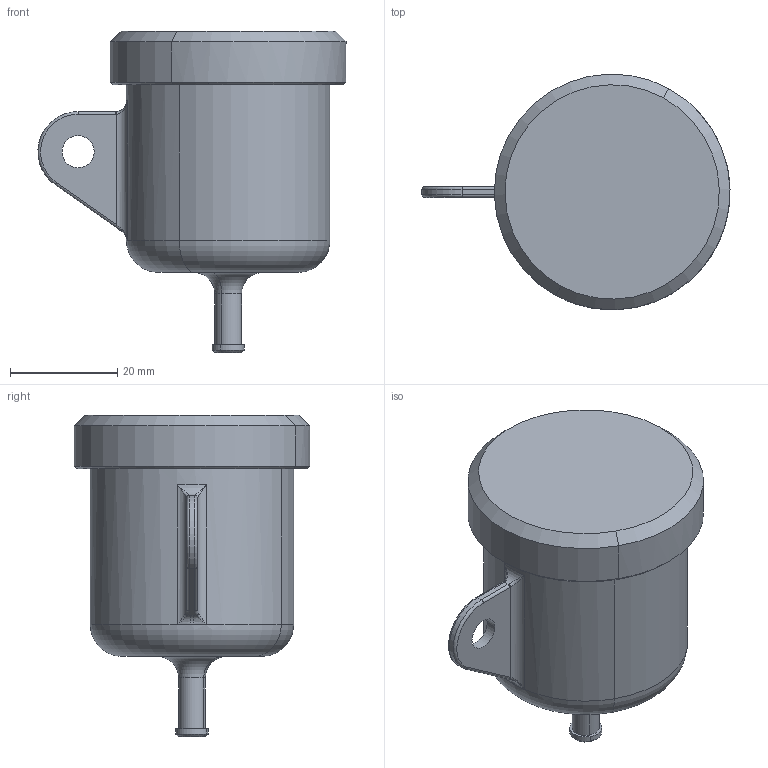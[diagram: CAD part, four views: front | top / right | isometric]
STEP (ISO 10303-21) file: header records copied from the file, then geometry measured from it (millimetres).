
FILE_DESCRIPTION(('3DEXPERIENCE STEP','CAx-IF Rec.Pracs.--- Model Styling and Organization---1.5--- 2016-08-15','CAx-IF Rec.Pracs.---Supplemental Geometry---1.0---2011-11-01','CAx-IF Rec.Pracs.--- Composite Materials ---3.4---2017-06-13','CAx-IF Rec.Pracs.---Tessellated 3D Geometry---1.0---2015-12-17'),'2;1');
FILE_NAME('\\?\D:\School\CarTech\CTU.25\Tutorials\Model\OEM\Reservoir.stp','2024-09-26T02:27:31+00:00',('none'),('none'),'3DEXPERIENCE Platform3DEXPERIENCE R2024x HotFix 4.24','3DEXPERIENCE Platform STEP AP242 v3','none');
FILE_SCHEMA(('AP242_MANAGED_MODEL_BASED_3D_ENGINEERING_MIM_LF {1 0 10303 442 1 1 4}'));
Length unit declared in the file: millimetre
Products named in the file (1): Brembo_remote_brake_fluid_reservoir_1
Bounding box: 57.48 x 43.99 x 60 mm (x, y, z)
Volume: 12122.4 mm3; surface area: 15992 mm2
Topology: 1 solids, 2 shells, 71 faces, 154 edges, 88 vertices
Faces by surface type: cylinder 23, bspline 15, plane 13, torus 11, cone 9
Entity records: 2475 total; most frequent: CARTESIAN_POINT 1115, ORIENTED_EDGE 300, DIRECTION 201, EDGE_CURVE 150, AXIS2_PLACEMENT_3D 119, VERTEX_POINT 88, EDGE_LOOP 78, CIRCLE 74
